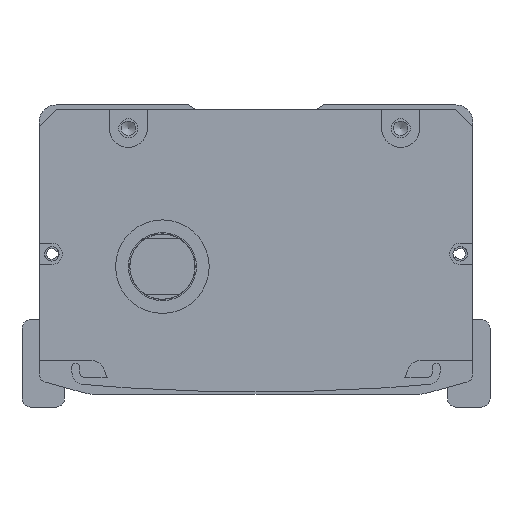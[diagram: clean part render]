
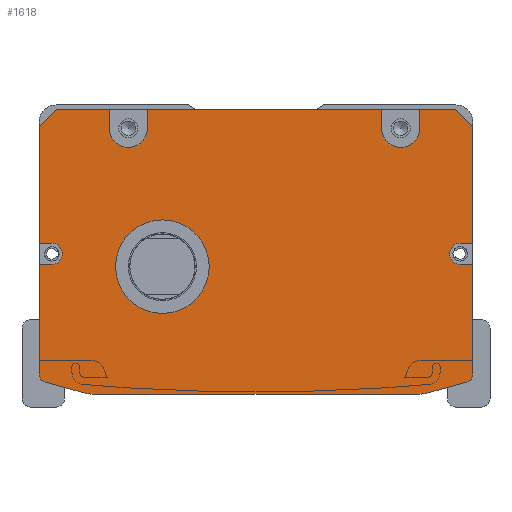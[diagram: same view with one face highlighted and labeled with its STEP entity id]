
A CAD part, front view. The second image highlights one B-rep face of the part: STEP entity #1618.
In plain terms, the highlighted planar face has unit normal (0, -1, 0).
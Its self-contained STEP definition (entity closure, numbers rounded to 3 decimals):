
#974=FACE_BOUND('',#3064,.T.);
#975=FACE_BOUND('',#3065,.T.);
#1618=ADVANCED_FACE('',(#974,#975),#2219,.F.);
#2219=PLANE('',#11855);
#3064=EDGE_LOOP('',(#5417,#5418,#5419,#5420,#5421,#5422,#5423,#5424,#5425,
#5426,#5427,#5428,#5429,#5430,#5431,#5432,#5433,#5434,#5435,#5436,#5437,
#5438,#5439,#5440,#5441,#5442,#5443,#5444));
#3065=EDGE_LOOP('',(#5445));
#4019=CIRCLE('',#11846,4.5);
#4020=CIRCLE('',#11847,4.5);
#4021=CIRCLE('',#11848,2.5);
#4022=CIRCLE('',#11849,2.);
#4023=CIRCLE('',#11850,10.);
#4024=CIRCLE('',#11851,10.);
#4025=CIRCLE('',#11852,2.);
#4026=CIRCLE('',#11853,2.5);
#4027=CIRCLE('',#11854,11.);
#5417=ORIENTED_EDGE('',*,*,#8746,.T.);
#5418=ORIENTED_EDGE('',*,*,#9162,.T.);
#5419=ORIENTED_EDGE('',*,*,#9163,.T.);
#5420=ORIENTED_EDGE('',*,*,#9164,.F.);
#5421=ORIENTED_EDGE('',*,*,#9165,.T.);
#5422=ORIENTED_EDGE('',*,*,#9166,.F.);
#5423=ORIENTED_EDGE('',*,*,#9167,.T.);
#5424=ORIENTED_EDGE('',*,*,#9168,.F.);
#5425=ORIENTED_EDGE('',*,*,#9169,.T.);
#5426=ORIENTED_EDGE('',*,*,#9170,.F.);
#5427=ORIENTED_EDGE('',*,*,#9171,.T.);
#5428=ORIENTED_EDGE('',*,*,#9172,.T.);
#5429=ORIENTED_EDGE('',*,*,#8778,.T.);
#5430=ORIENTED_EDGE('',*,*,#9173,.T.);
#5431=ORIENTED_EDGE('',*,*,#9174,.T.);
#5432=ORIENTED_EDGE('',*,*,#9175,.T.);
#5433=ORIENTED_EDGE('',*,*,#8774,.T.);
#5434=ORIENTED_EDGE('',*,*,#9176,.T.);
#5435=ORIENTED_EDGE('',*,*,#9177,.T.);
#5436=ORIENTED_EDGE('',*,*,#9178,.T.);
#5437=ORIENTED_EDGE('',*,*,#9179,.T.);
#5438=ORIENTED_EDGE('',*,*,#9180,.T.);
#5439=ORIENTED_EDGE('',*,*,#9181,.T.);
#5440=ORIENTED_EDGE('',*,*,#9182,.T.);
#5441=ORIENTED_EDGE('',*,*,#8750,.T.);
#5442=ORIENTED_EDGE('',*,*,#9183,.T.);
#5443=ORIENTED_EDGE('',*,*,#9184,.T.);
#5444=ORIENTED_EDGE('',*,*,#9185,.T.);
#5445=ORIENTED_EDGE('',*,*,#9186,.T.);
#7622=VERTEX_POINT('',#16324);
#7623=VERTEX_POINT('',#16326);
#7626=VERTEX_POINT('',#16332);
#7627=VERTEX_POINT('',#16334);
#7648=VERTEX_POINT('',#16379);
#7649=VERTEX_POINT('',#16381);
#7652=VERTEX_POINT('',#16387);
#7653=VERTEX_POINT('',#16389);
#7916=VERTEX_POINT('',#17182);
#7917=VERTEX_POINT('',#17184);
#7918=VERTEX_POINT('',#17186);
#7919=VERTEX_POINT('',#17188);
#7920=VERTEX_POINT('',#17190);
#7921=VERTEX_POINT('',#17192);
#7922=VERTEX_POINT('',#17194);
#7923=VERTEX_POINT('',#17196);
#7924=VERTEX_POINT('',#17198);
#7925=VERTEX_POINT('',#17200);
#7926=VERTEX_POINT('',#17203);
#7927=VERTEX_POINT('',#17205);
#7928=VERTEX_POINT('',#17208);
#7929=VERTEX_POINT('',#17210);
#7930=VERTEX_POINT('',#17212);
#7931=VERTEX_POINT('',#17214);
#7932=VERTEX_POINT('',#17216);
#7933=VERTEX_POINT('',#17218);
#7934=VERTEX_POINT('',#17221);
#7935=VERTEX_POINT('',#17223);
#7936=VERTEX_POINT('',#17226);
#8746=EDGE_CURVE('',#7623,#7622,#10189,.T.);
#8750=EDGE_CURVE('',#7627,#7626,#10193,.T.);
#8774=EDGE_CURVE('',#7649,#7648,#10217,.T.);
#8778=EDGE_CURVE('',#7653,#7652,#10221,.T.);
#9162=EDGE_CURVE('',#7622,#7916,#10454,.T.);
#9163=EDGE_CURVE('',#7916,#7917,#10455,.T.);
#9164=EDGE_CURVE('',#7918,#7917,#10456,.T.);
#9165=EDGE_CURVE('',#7918,#7919,#4019,.T.);
#9166=EDGE_CURVE('',#7920,#7919,#10457,.T.);
#9167=EDGE_CURVE('',#7920,#7921,#10458,.T.);
#9168=EDGE_CURVE('',#7922,#7921,#10459,.T.);
#9169=EDGE_CURVE('',#7922,#7923,#4020,.T.);
#9170=EDGE_CURVE('',#7924,#7923,#10460,.T.);
#9171=EDGE_CURVE('',#7924,#7925,#10461,.T.);
#9172=EDGE_CURVE('',#7925,#7653,#10462,.T.);
#9173=EDGE_CURVE('',#7652,#7926,#10463,.T.);
#9174=EDGE_CURVE('',#7926,#7927,#4021,.T.);
#9175=EDGE_CURVE('',#7927,#7649,#10464,.T.);
#9176=EDGE_CURVE('',#7648,#7928,#4022,.T.);
#9177=EDGE_CURVE('',#7928,#7929,#10465,.T.);
#9178=EDGE_CURVE('',#7929,#7930,#4023,.T.);
#9179=EDGE_CURVE('',#7930,#7931,#10466,.T.);
#9180=EDGE_CURVE('',#7931,#7932,#4024,.T.);
#9181=EDGE_CURVE('',#7932,#7933,#10467,.T.);
#9182=EDGE_CURVE('',#7933,#7627,#4025,.T.);
#9183=EDGE_CURVE('',#7626,#7934,#10468,.T.);
#9184=EDGE_CURVE('',#7934,#7935,#4026,.T.);
#9185=EDGE_CURVE('',#7935,#7623,#10469,.T.);
#9186=EDGE_CURVE('',#7936,#7936,#4027,.T.);
#10189=LINE('',#16325,#10842);
#10193=LINE('',#16333,#10846);
#10217=LINE('',#16380,#10870);
#10221=LINE('',#16388,#10874);
#10454=LINE('',#17181,#11107);
#10455=LINE('',#17183,#11108);
#10456=LINE('',#17185,#11109);
#10457=LINE('',#17189,#11110);
#10458=LINE('',#17191,#11111);
#10459=LINE('',#17193,#11112);
#10460=LINE('',#17197,#11113);
#10461=LINE('',#17199,#11114);
#10462=LINE('',#17201,#11115);
#10463=LINE('',#17202,#11116);
#10464=LINE('',#17206,#11117);
#10465=LINE('',#17209,#11118);
#10466=LINE('',#17213,#11119);
#10467=LINE('',#17217,#11120);
#10468=LINE('',#17220,#11121);
#10469=LINE('',#17224,#11122);
#10842=VECTOR('',#13034,1.);
#10846=VECTOR('',#13038,1.);
#10870=VECTOR('',#13064,1.);
#10874=VECTOR('',#13068,1.);
#11107=VECTOR('',#13895,1.);
#11108=VECTOR('',#13896,1.);
#11109=VECTOR('',#13897,1.);
#11110=VECTOR('',#13900,1.);
#11111=VECTOR('',#13901,1.);
#11112=VECTOR('',#13902,1.);
#11113=VECTOR('',#13905,1.);
#11114=VECTOR('',#13906,1.);
#11115=VECTOR('',#13907,1.);
#11116=VECTOR('',#13908,1.);
#11117=VECTOR('',#13911,1.);
#11118=VECTOR('',#13914,1.);
#11119=VECTOR('',#13917,1.);
#11120=VECTOR('',#13920,1.);
#11121=VECTOR('',#13923,1.);
#11122=VECTOR('',#13926,1.);
#11846=AXIS2_PLACEMENT_3D('',#17187,#13898,#13899);
#11847=AXIS2_PLACEMENT_3D('',#17195,#13903,#13904);
#11848=AXIS2_PLACEMENT_3D('',#17204,#13909,#13910);
#11849=AXIS2_PLACEMENT_3D('',#17207,#13912,#13913);
#11850=AXIS2_PLACEMENT_3D('',#17211,#13915,#13916);
#11851=AXIS2_PLACEMENT_3D('',#17215,#13918,#13919);
#11852=AXIS2_PLACEMENT_3D('',#17219,#13921,#13922);
#11853=AXIS2_PLACEMENT_3D('',#17222,#13924,#13925);
#11854=AXIS2_PLACEMENT_3D('',#17225,#13927,#13928);
#11855=AXIS2_PLACEMENT_3D('',#17227,#13929,#13930);
#13034=DIRECTION('',(0.,0.,1.));
#13038=DIRECTION('',(0.,0.,1.));
#13064=DIRECTION('',(0.,0.,-1.));
#13068=DIRECTION('',(0.,0.,-1.));
#13895=DIRECTION('',(-0.707,0.,0.707));
#13896=DIRECTION('',(-1.,0.,0.));
#13897=DIRECTION('',(0.,0.,1.));
#13898=DIRECTION('',(0.,1.,0.));
#13899=DIRECTION('',(0.,0.,1.));
#13900=DIRECTION('',(0.,0.,-1.));
#13901=DIRECTION('',(-1.,0.,0.));
#13902=DIRECTION('',(0.,0.,1.));
#13903=DIRECTION('',(0.,1.,0.));
#13904=DIRECTION('',(0.,0.,1.));
#13905=DIRECTION('',(0.,0.,-1.));
#13906=DIRECTION('',(-1.,0.,0.));
#13907=DIRECTION('',(-0.707,0.,-0.707));
#13908=DIRECTION('',(1.,0.,0.));
#13909=DIRECTION('',(0.,1.,0.));
#13910=DIRECTION('',(0.,0.,1.));
#13911=DIRECTION('',(-1.,0.,0.));
#13912=DIRECTION('',(0.,-1.,0.));
#13913=DIRECTION('',(0.,0.,1.));
#13914=DIRECTION('',(0.963,0.,-0.269));
#13915=DIRECTION('',(0.,-1.,0.));
#13916=DIRECTION('',(0.,0.,1.));
#13917=DIRECTION('',(1.,0.,0.));
#13918=DIRECTION('',(0.,-1.,0.));
#13919=DIRECTION('',(0.,0.,-1.));
#13920=DIRECTION('',(0.963,0.,0.269));
#13921=DIRECTION('',(0.,-1.,0.));
#13922=DIRECTION('',(0.,0.,-1.));
#13923=DIRECTION('',(-1.,0.,0.));
#13924=DIRECTION('',(0.,1.,0.));
#13925=DIRECTION('',(0.,0.,1.));
#13926=DIRECTION('',(1.,0.,0.));
#13927=DIRECTION('',(0.,1.,0.));
#13928=DIRECTION('',(0.,0.,1.));
#13929=DIRECTION('',(0.,1.,0.));
#13930=DIRECTION('',(1.,0.,0.));
#16324=CARTESIAN_POINT('',(47.808,-357.5,-5.));
#16325=CARTESIAN_POINT('',(47.808,-357.5,-1.));
#16326=CARTESIAN_POINT('',(47.808,-357.5,-32.5));
#16332=CARTESIAN_POINT('',(47.808,-357.5,-37.5));
#16333=CARTESIAN_POINT('',(47.808,-357.5,-1.));
#16334=CARTESIAN_POINT('',(47.808,-357.5,-63.212));
#16379=CARTESIAN_POINT('',(-54.192,-357.5,-63.212));
#16380=CARTESIAN_POINT('',(-54.192,-357.5,-62.));
#16381=CARTESIAN_POINT('',(-54.192,-357.5,-37.5));
#16387=CARTESIAN_POINT('',(-54.192,-357.5,-32.5));
#16388=CARTESIAN_POINT('',(-54.192,-357.5,-62.));
#16389=CARTESIAN_POINT('',(-54.192,-357.5,-5.));
#17181=CARTESIAN_POINT('',(43.808,-357.5,-1.));
#17182=CARTESIAN_POINT('',(43.808,-357.5,-1.));
#17183=CARTESIAN_POINT('',(-3.192,-357.5,-1.));
#17184=CARTESIAN_POINT('',(35.308,-357.5,-1.));
#17185=CARTESIAN_POINT('',(35.308,-357.5,-1.));
#17186=CARTESIAN_POINT('',(35.308,-357.5,-5.5));
#17187=CARTESIAN_POINT('',(30.808,-357.5,-5.5));
#17188=CARTESIAN_POINT('',(26.308,-357.5,-5.5));
#17189=CARTESIAN_POINT('',(26.308,-357.5,-1.));
#17190=CARTESIAN_POINT('',(26.308,-357.5,-1.));
#17191=CARTESIAN_POINT('',(-54.192,-357.5,-1.));
#17192=CARTESIAN_POINT('',(-28.692,-357.5,-1.));
#17193=CARTESIAN_POINT('',(-28.692,-357.5,-3.5));
#17194=CARTESIAN_POINT('',(-28.692,-357.5,-5.5));
#17195=CARTESIAN_POINT('',(-33.192,-357.5,-5.5));
#17196=CARTESIAN_POINT('',(-37.692,-357.5,-5.5));
#17197=CARTESIAN_POINT('',(-37.692,-357.5,-1.));
#17198=CARTESIAN_POINT('',(-37.692,-357.5,-1.));
#17199=CARTESIAN_POINT('',(-54.192,-357.5,-1.));
#17200=CARTESIAN_POINT('',(-50.192,-357.5,-1.));
#17201=CARTESIAN_POINT('',(-54.192,-357.5,-5.));
#17202=CARTESIAN_POINT('',(-3.192,-357.5,-32.5));
#17203=CARTESIAN_POINT('',(-51.192,-357.5,-32.5));
#17204=CARTESIAN_POINT('',(-51.192,-357.5,-35.));
#17205=CARTESIAN_POINT('',(-51.192,-357.5,-37.5));
#17206=CARTESIAN_POINT('',(-3.192,-357.5,-37.5));
#17207=CARTESIAN_POINT('',(-52.192,-357.5,-63.212));
#17208=CARTESIAN_POINT('',(-52.731,-357.5,-65.138));
#17209=CARTESIAN_POINT('',(-55.807,-357.5,-64.279));
#17210=CARTESIAN_POINT('',(-43.809,-357.5,-67.631));
#17211=CARTESIAN_POINT('',(-41.118,-357.5,-58.));
#17212=CARTESIAN_POINT('',(-41.118,-357.5,-68.));
#17213=CARTESIAN_POINT('',(-54.692,-357.5,-68.));
#17214=CARTESIAN_POINT('',(34.733,-357.5,-68.));
#17215=CARTESIAN_POINT('',(34.733,-357.5,-58.));
#17216=CARTESIAN_POINT('',(37.424,-357.5,-67.631));
#17217=CARTESIAN_POINT('',(49.422,-357.5,-64.279));
#17218=CARTESIAN_POINT('',(46.346,-357.5,-65.138));
#17219=CARTESIAN_POINT('',(45.808,-357.5,-63.212));
#17220=CARTESIAN_POINT('',(-3.192,-357.5,-37.5));
#17221=CARTESIAN_POINT('',(44.808,-357.5,-37.5));
#17222=CARTESIAN_POINT('',(44.808,-357.5,-35.));
#17223=CARTESIAN_POINT('',(44.808,-357.5,-32.5));
#17224=CARTESIAN_POINT('',(-3.192,-357.5,-32.5));
#17225=CARTESIAN_POINT('',(-25.192,-357.5,-38.));
#17226=CARTESIAN_POINT('',(-25.192,-357.5,-27.));
#17227=CARTESIAN_POINT('',(-3.192,-357.5,-1.));
